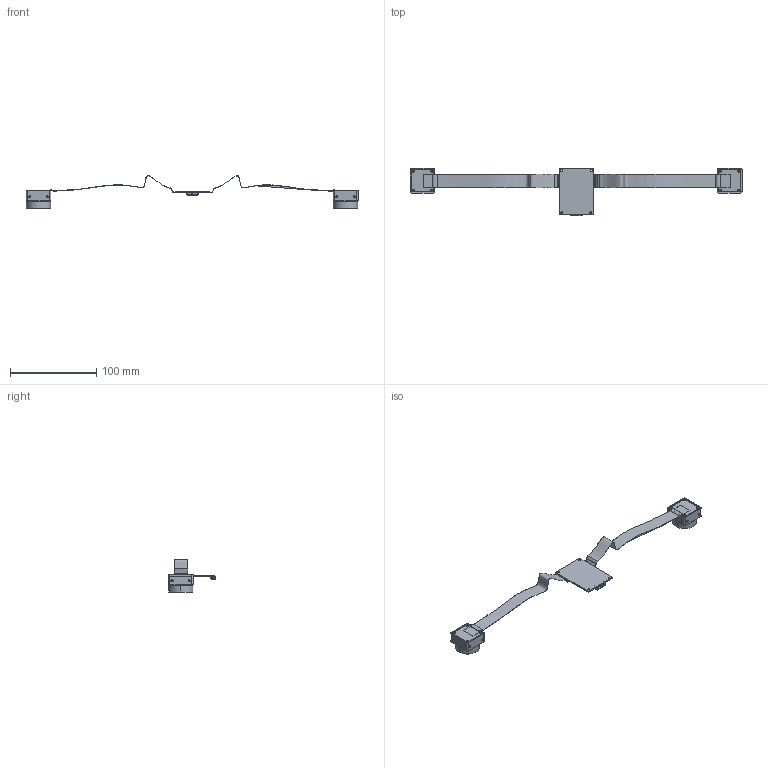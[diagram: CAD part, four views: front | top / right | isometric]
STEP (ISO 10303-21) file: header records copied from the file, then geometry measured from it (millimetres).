
FILE_DESCRIPTION (( 'STEP AP203' ), '1' );
FILE_NAME ('ven_134_u3_user_s1.0.0.STEP', '2019-12-05T08:24:07', ( '' ), ( '' ), 'SwSTEP 2.0', 'SolidWorks 2016', '' );
FILE_SCHEMA (( 'CONFIG_CONTROL_DESIGN' ));
Length unit declared in the file: millimetre
Products named in the file (7): 錨璃3; mer_lspzj_pom_s1.0.0; 錨璃1^VEN-134; ld_M2x4_szcyztld_a2.0.0; ven_134_u3_user_s1.0.0; 葩璃 VEN-PCB^VEN-134; U3諉諳
Assembly tree (16 placements, depth 2):
  ven_134_u3_user_s1.0.0
    葩璃 VEN-PCB^VEN-134
    U3諉諳
    錨璃3  x2
    mer_lspzj_pom_s1.0.0  x2
    錨璃1^VEN-134  x2
    ld_M2x4_szcyztld_a2.0.0  x8
Bounding box: 385.68 x 55.4 x 37.81 mm (x, y, z)
Volume: 18539.5 mm3; surface area: 33163.3 mm2
Topology: 18 solids, 18 shells, 1400 faces, 3896 edges, 2515 vertices
Faces by surface type: plane 707, cylinder 611, cone 50, bspline 32
Entity records: 36142 total; most frequent: CARTESIAN_POINT 9986, ORIENTED_EDGE 5478, DIRECTION 5041, EDGE_CURVE 2739, LINE 1863, VECTOR 1863, VERTEX_POINT 1759, AXIS2_PLACEMENT_3D 1589
